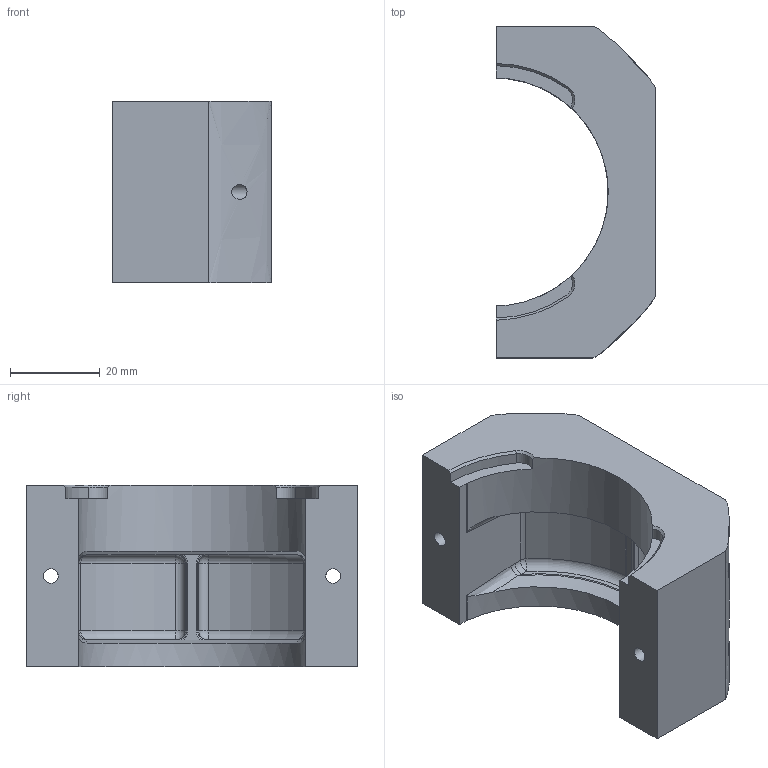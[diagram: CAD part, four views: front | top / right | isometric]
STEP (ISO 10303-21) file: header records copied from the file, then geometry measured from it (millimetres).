
FILE_DESCRIPTION(/* description */ ('STEP AP242 Edition 2','CAx-IF Rec.Pracs.---Representation and Presentation of Product Manufacturing Information (PMI)---4.0---2014-10-13','CAx-IF Rec.Pracs.---3D Tessellated Geometry---0.4---2014-09-14','2;1','CAx-IF Rec.Pracs.---User Defined Attributes---1.5---2016-08-15'),/* implementation_level */ '2;1');
FILE_NAME(/* name */ 'Assy_ForMFG - KD-C-503X_Clamp_Key',/* time_stamp */ '2026-05-15T19:56:32Z',/* author */ (''),/* organization */ (''),/* preprocessor_version */ 'ST-DEVELOPER v20',/* originating_system */ 'ONSHAPE BY PTC INC, 1.215',/* authorisation */ ' ');
FILE_SCHEMA (('AP242_MANAGED_MODEL_BASED_3D_ENGINEERING_MIM_LF { 1 0 10303 442 3 1 4 }'));
Length unit declared in the file: metre
Products named in the file (1): KD-C-503X_Clamp_Key
Bounding box: 35.5 x 74 x 40.5 mm (x, y, z)
Volume: 50546.7 mm3; surface area: 13930.2 mm2
Topology: 1 solids, 1 shells, 92 faces, 232 edges, 134 vertices
Faces by surface type: cylinder 28, bspline 22, plane 20, torus 8, sphere 8, cone 6
Full cylindrical faces by diameter (mm): 3.3 x2
Entity records: 3165 total; most frequent: CARTESIAN_POINT 1172, ORIENTED_EDGE 444, DIRECTION 364, EDGE_CURVE 222, AXIS2_PLACEMENT_3D 147, VERTEX_POINT 134, EDGE_LOOP 98, FACE_BOUND 98
